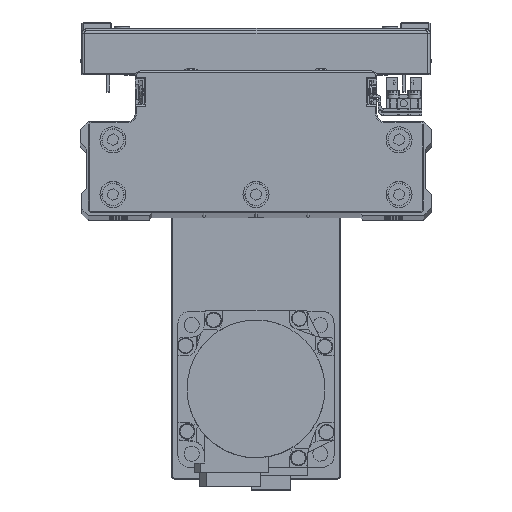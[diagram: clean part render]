
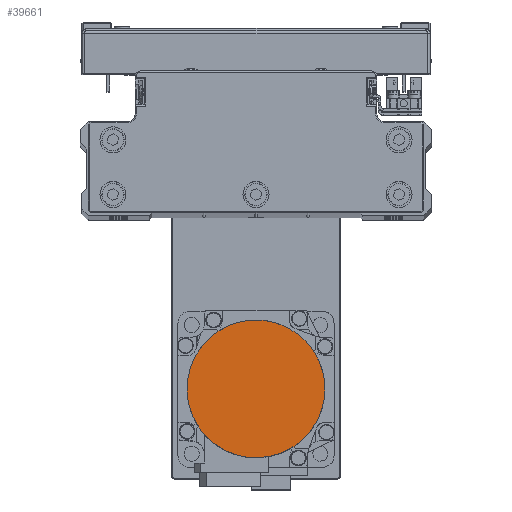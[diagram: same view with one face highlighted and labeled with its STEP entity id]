
A CAD part, top view. The second image highlights one B-rep face of the part: STEP entity #39661.
In plain terms, the highlighted planar face has unit normal (0, 0, 1) as drawn and (0, 0, -1) by its records, which use the part's own axes.
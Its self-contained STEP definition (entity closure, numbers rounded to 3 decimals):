
#46 = CARTESIAN_POINT ( 'NONE',  ( 25.652, 6.871, -109.7 ) ) ;
#202 = AXIS2_PLACEMENT_3D ( 'NONE', #18616, #32311, #1616 ) ;
#281 = CARTESIAN_POINT ( 'NONE',  ( 1.734, 26.5, -109.7 ) ) ;
#491 = CARTESIAN_POINT ( 'NONE',  ( -25.147, 8.539, -109.7 ) ) ;
#1271 = CARTESIAN_POINT ( 'NONE',  ( -26.5, 0., -109.7 ) ) ;
#1497 = CARTESIAN_POINT ( 'NONE',  ( -8.539, -25.147, -109.7 ) ) ;
#1616 = DIRECTION ( 'NONE',  ( 1., 0., 0. ) ) ;
#1728 = CARTESIAN_POINT ( 'NONE',  ( 21.07, -16.165, -109.7 ) ) ;
#1733 = VERTEX_POINT ( 'NONE', #4343 ) ;
#3404 = CARTESIAN_POINT ( 'NONE',  ( 26.5, 0., -109.7 ) ) ;
#3627 = CARTESIAN_POINT ( 'NONE',  ( 8.539, 25.147, -109.7 ) ) ;
#3857 = CARTESIAN_POINT ( 'NONE',  ( -21.07, 16.165, -109.7 ) ) ;
#4343 = CARTESIAN_POINT ( 'NONE',  ( 26.5, 0., -109.7 ) ) ;
#4839 = CARTESIAN_POINT ( 'NONE',  ( -16.165, -21.07, -109.7 ) ) ;
#4962 = PLANE ( 'NONE',  #202 ) ;
#5065 = CARTESIAN_POINT ( 'NONE',  ( 16.165, -21.07, -109.7 ) ) ;
#6983 = CARTESIAN_POINT ( 'NONE',  ( 16.165, 21.07, -109.7 ) ) ;
#7197 = CARTESIAN_POINT ( 'NONE',  ( -16.165, 21.07, -109.7 ) ) ;
#7491 = CARTESIAN_POINT ( 'NONE',  ( -26.5, 0., -109.7 ) ) ;
#8172 = ORIENTED_EDGE ( 'NONE', *, *, #43499, .F. ) ;
#8204 = CARTESIAN_POINT ( 'NONE',  ( -21.07, -16.165, -109.7 ) ) ;
#8421 = CARTESIAN_POINT ( 'NONE',  ( 8.539, -25.147, -109.7 ) ) ;
#8647 = CARTESIAN_POINT ( 'NONE',  ( 26.5, 0., -109.7 ) ) ;
#10359 = CARTESIAN_POINT ( 'NONE',  ( 21.07, 16.165, -109.7 ) ) ;
#10570 = CARTESIAN_POINT ( 'NONE',  ( -8.539, 25.147, -109.7 ) ) ;
#10784 = CARTESIAN_POINT ( 'NONE',  ( -26.5, 0., -109.7 ) ) ;
#11566 = CARTESIAN_POINT ( 'NONE',  ( -25.147, -8.539, -109.7 ) ) ;
#11798 = CARTESIAN_POINT ( 'NONE',  ( 1.734, -26.5, -109.7 ) ) ;
#12007 = CARTESIAN_POINT ( 'NONE',  ( 25.652, -6.871, -109.7 ) ) ;
#13691 = CARTESIAN_POINT ( 'NONE',  ( 25.147, 8.539, -109.7 ) ) ;
#13920 = CARTESIAN_POINT ( 'NONE',  ( -1.734, 26.5, -109.7 ) ) ;
#14130 = CARTESIAN_POINT ( 'NONE',  ( -25.652, 6.871, -109.7 ) ) ;
#14912 = CARTESIAN_POINT ( 'NONE',  ( -26.5, -1.734, -109.7 ) ) ;
#15135 = CARTESIAN_POINT ( 'NONE',  ( -6.871, -25.652, -109.7 ) ) ;
#15354 = CARTESIAN_POINT ( 'NONE',  ( 22.998, -13.28, -109.7 ) ) ;
#17058 = CARTESIAN_POINT ( 'NONE',  ( 26.5, 1.734, -109.7 ) ) ;
#17276 = CARTESIAN_POINT ( 'NONE',  ( 6.871, 25.652, -109.7 ) ) ;
#17507 = CARTESIAN_POINT ( 'NONE',  ( -22.998, 13.28, -109.7 ) ) ;
#18496 = CARTESIAN_POINT ( 'NONE',  ( -13.28, -22.998, -109.7 ) ) ;
#18616 = CARTESIAN_POINT ( 'NONE',  ( 0., 0., -109.7 ) ) ;
#18728 = CARTESIAN_POINT ( 'NONE',  ( 17.512, -19.965, -109.7 ) ) ;
#18875 = EDGE_CURVE ( 'NONE', #38037, #1733, #42167, .T. ) ;
#20647 = CARTESIAN_POINT ( 'NONE',  ( 13.28, 22.998, -109.7 ) ) ;
#20861 = CARTESIAN_POINT ( 'NONE',  ( -17.512, 19.965, -109.7 ) ) ;
#21861 = CARTESIAN_POINT ( 'NONE',  ( -19.965, -17.512, -109.7 ) ) ;
#22086 = CARTESIAN_POINT ( 'NONE',  ( 11.744, -23.819, -109.7 ) ) ;
#23145 = EDGE_LOOP ( 'NONE', ( #8172, #26989 ) ) ;
#24012 = CARTESIAN_POINT ( 'NONE',  ( 19.965, 17.512, -109.7 ) ) ;
#24233 = CARTESIAN_POINT ( 'NONE',  ( -11.744, 23.819, -109.7 ) ) ;
#25238 = CARTESIAN_POINT ( 'NONE',  ( -23.819, -11.744, -109.7 ) ) ;
#25458 = CARTESIAN_POINT ( 'NONE',  ( 3.469, -26.329, -109.7 ) ) ;
#25686 = CARTESIAN_POINT ( 'NONE',  ( 26.329, -3.469, -109.7 ) ) ;
#26989 = ORIENTED_EDGE ( 'NONE', *, *, #18875, .F. ) ;
#27377 = CARTESIAN_POINT ( 'NONE',  ( 23.819, 11.744, -109.7 ) ) ;
#27598 = CARTESIAN_POINT ( 'NONE',  ( -3.469, 26.329, -109.7 ) ) ;
#27796 = B_SPLINE_CURVE_WITH_KNOTS ( 'NONE', 3,
 ( #3404, #17058, #30750, #46, #13691, #27377, #41085, #10359, #24012, #37698, #6983, #20647, #34338, #3627, #17276, #30979, #281, #13920, #27598, #41294, #10570, #24233, #37919, #7197, #20861, #34559, #3857, #17507, #31192, #491, #14130, #27817, #41518, #10784 ),
 .UNSPECIFIED., .F., .F.,
 ( 4, 2, 2, 2, 2, 2, 2, 2, 2, 2, 2, 2, 2, 2, 2, 2, 4 ),
 ( 0., 0.062, 0.125, 0.187, 0.25, 0.312, 0.375, 0.437, 0.5, 0.562, 0.625, 0.687, 0.75, 0.813, 0.875, 0.938, 1. ),
 .UNSPECIFIED. ) ;
#27817 = CARTESIAN_POINT ( 'NONE',  ( -26.329, 3.469, -109.7 ) ) ;
#28597 = CARTESIAN_POINT ( 'NONE',  ( -26.329, -3.469, -109.7 ) ) ;
#28829 = CARTESIAN_POINT ( 'NONE',  ( -3.469, -26.329, -109.7 ) ) ;
#29053 = CARTESIAN_POINT ( 'NONE',  ( 23.819, -11.744, -109.7 ) ) ;
#30750 = CARTESIAN_POINT ( 'NONE',  ( 26.329, 3.469, -109.7 ) ) ;
#30979 = CARTESIAN_POINT ( 'NONE',  ( 3.469, 26.329, -109.7 ) ) ;
#31192 = CARTESIAN_POINT ( 'NONE',  ( -23.819, 11.744, -109.7 ) ) ;
#32193 = CARTESIAN_POINT ( 'NONE',  ( -11.744, -23.819, -109.7 ) ) ;
#32311 = DIRECTION ( 'NONE',  ( 0., 0., 1. ) ) ;
#32424 = CARTESIAN_POINT ( 'NONE',  ( 19.965, -17.512, -109.7 ) ) ;
#34338 = CARTESIAN_POINT ( 'NONE',  ( 11.744, 23.819, -109.7 ) ) ;
#34559 = CARTESIAN_POINT ( 'NONE',  ( -19.965, 17.512, -109.7 ) ) ;
#35555 = CARTESIAN_POINT ( 'NONE',  ( -17.512, -19.965, -109.7 ) ) ;
#35673 = FACE_OUTER_BOUND ( 'NONE', #23145, .T. ) ;
#35774 = CARTESIAN_POINT ( 'NONE',  ( 13.28, -22.998, -109.7 ) ) ;
#37698 = CARTESIAN_POINT ( 'NONE',  ( 17.512, 19.965, -109.7 ) ) ;
#37919 = CARTESIAN_POINT ( 'NONE',  ( -13.28, 22.998, -109.7 ) ) ;
#38037 = VERTEX_POINT ( 'NONE', #7491 ) ;
#38934 = CARTESIAN_POINT ( 'NONE',  ( -22.998, -13.28, -109.7 ) ) ;
#39143 = CARTESIAN_POINT ( 'NONE',  ( 6.871, -25.652, -109.7 ) ) ;
#39367 = CARTESIAN_POINT ( 'NONE',  ( 26.5, -1.734, -109.7 ) ) ;
#39661 = ADVANCED_FACE ( 'NONE', ( #35673 ), #4962, .F. ) ;
#41085 = CARTESIAN_POINT ( 'NONE',  ( 22.998, 13.28, -109.7 ) ) ;
#41294 = CARTESIAN_POINT ( 'NONE',  ( -6.871, 25.652, -109.7 ) ) ;
#41518 = CARTESIAN_POINT ( 'NONE',  ( -26.5, 1.734, -109.7 ) ) ;
#42167 = B_SPLINE_CURVE_WITH_KNOTS ( 'NONE', 3,
 ( #1271, #14912, #28597, #42303, #11566, #25238, #38934, #8204, #21861, #35555, #4839, #18496, #32193, #1497, #15135, #28829, #42537, #11798, #25458, #39143, #8421, #22086, #35774, #5065, #18728, #32424, #1728, #15354, #29053, #42745, #12007, #25686, #39367, #8647 ),
 .UNSPECIFIED., .F., .F.,
 ( 4, 2, 2, 2, 2, 2, 2, 2, 2, 2, 2, 2, 2, 2, 2, 2, 4 ),
 ( 0., 0.063, 0.125, 0.188, 0.25, 0.312, 0.375, 0.437, 0.5, 0.562, 0.625, 0.687, 0.75, 0.813, 0.875, 0.938, 1. ),
 .UNSPECIFIED. ) ;
#42303 = CARTESIAN_POINT ( 'NONE',  ( -25.652, -6.871, -109.7 ) ) ;
#42537 = CARTESIAN_POINT ( 'NONE',  ( -1.734, -26.5, -109.7 ) ) ;
#42745 = CARTESIAN_POINT ( 'NONE',  ( 25.147, -8.539, -109.7 ) ) ;
#43499 = EDGE_CURVE ( 'NONE', #1733, #38037, #27796, .T. ) ;
